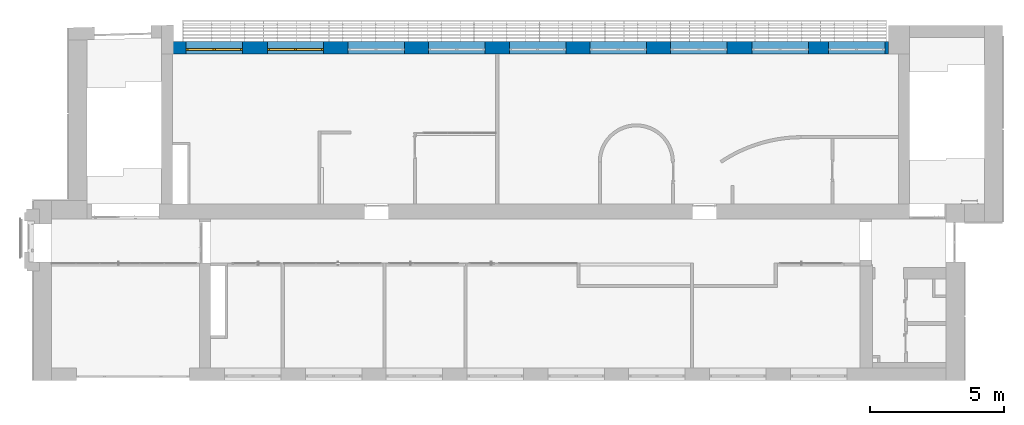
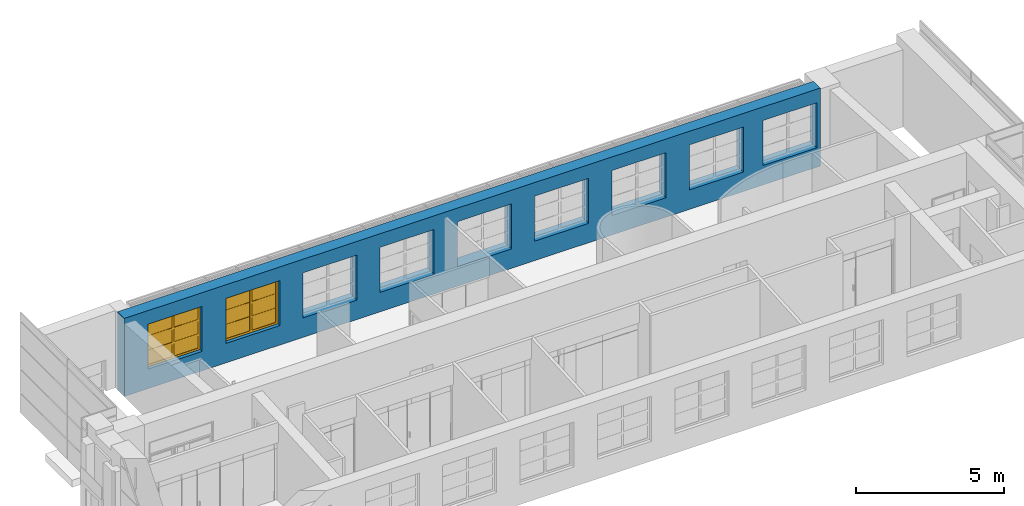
# One storey, part 34 of 46: 2 windows, 1 wall, 9 openings.
"""IFC2X3 building model written with IfcOpenShell, lengths in millimetres."""

from ifc_helpers import new_model, entity, si_unit, converted_unit, derived_unit, direction, frame, frame_2d, origin, origin_2d_with_axis, place, context, subcontext, project, spatial, rectangle, extrude, face_set, surface_model, source, transform, mapped, material, material_list, layer, layer_set, layer_usage, type_object, type_shapes, element, fill, save


model = new_model("IFC2X3")

# Units and contexts
model_context = context("Model", 3, precision=0.01, world=origin(), true_north=direction((6.12303176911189e-17, 1.0)))
body_context = subcontext(model_context, "Body", "Model", "MODEL_VIEW")
ifc_project = project(units=[si_unit("LENGTHUNIT", "METRE", prefix="MILLI"), si_unit("AREAUNIT", "SQUARE_METRE"), si_unit("VOLUMEUNIT", "CUBIC_METRE"), converted_unit("PLANEANGLEUNIT", "DEGREE", entity("IfcRatioMeasure", 0.0174532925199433), si_unit("PLANEANGLEUNIT", "RADIAN"), dimensions=[0, 0, 0, 0, 0, 0, 0]), si_unit("MASSUNIT", "GRAM", prefix="KILO"), derived_unit("MASSDENSITYUNIT", [(si_unit("MASSUNIT", "GRAM", prefix="KILO"), 1), (si_unit("LENGTHUNIT", "METRE"), -3)]), si_unit("TIMEUNIT", "SECOND"), si_unit("FREQUENCYUNIT", "HERTZ"), si_unit("THERMODYNAMICTEMPERATUREUNIT", "DEGREE_CELSIUS"), derived_unit("THERMALTRANSMITTANCEUNIT", [(si_unit("MASSUNIT", "GRAM", prefix="KILO"), 1), (si_unit("THERMODYNAMICTEMPERATUREUNIT", "KELVIN"), -1), (si_unit("TIMEUNIT", "SECOND"), -3)]), derived_unit("VOLUMETRICFLOWRATEUNIT", [(si_unit("LENGTHUNIT", "METRE"), 3), (si_unit("TIMEUNIT", "SECOND"), -1)]), si_unit("ELECTRICCURRENTUNIT", "AMPERE"), si_unit("ELECTRICVOLTAGEUNIT", "VOLT"), si_unit("POWERUNIT", "WATT"), si_unit("FORCEUNIT", "NEWTON", prefix="KILO"), si_unit("ILLUMINANCEUNIT", "LUX"), si_unit("LUMINOUSFLUXUNIT", "LUMEN"), si_unit("LUMINOUSINTENSITYUNIT", "CANDELA"), derived_unit("USERDEFINED", [(si_unit("MASSUNIT", "GRAM", prefix="KILO"), -1), (si_unit("LENGTHUNIT", "METRE"), -2), (si_unit("TIMEUNIT", "SECOND"), 3), (si_unit("LUMINOUSFLUXUNIT", "LUMEN"), 1)]), derived_unit("LINEARVELOCITYUNIT", [(si_unit("LENGTHUNIT", "METRE"), 1), (si_unit("TIMEUNIT", "SECOND"), -1)]), si_unit("PRESSUREUNIT", "PASCAL"), derived_unit("USERDEFINED", [(si_unit("LENGTHUNIT", "METRE"), -2), (si_unit("MASSUNIT", "GRAM", prefix="KILO"), 1), (si_unit("TIMEUNIT", "SECOND"), -2)])], contexts=[model_context])

# Site, building, storey
site_placement = place(None, frame((-151.875543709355, 2715.0, 0.0)))
site = spatial("IfcSite", under=ifc_project, at=site_placement, Name="Surface", CompositionType="ELEMENT")
building_placement = place(site_placement, origin())
building = spatial("IfcBuilding", under=site, at=building_placement, CompositionType="ELEMENT")
storey_placement = place(building_placement, frame((0.0, 0.0, 10060.0)))
storey = spatial("IfcBuildingStorey", under=building, at=storey_placement, Name="4 korrus", CompositionType="ELEMENT", Elevation=10060.0000000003)

# Wall, openings, windows
ifc_material_1 = material(Name="Brick, Common")
ifc_layer_1 = layer(ifc_material_1, 440.0)
ifc_material_2 = material(Name="__Kips GN13_tava")
ifc_layer_2 = layer(ifc_material_2, 20.0)
ifc_layer_set = layer_set([ifc_layer_1, ifc_layer_2], Name="Basic Wall:VS-1")
ifc_layer_usage = layer_usage(ifc_layer_set, "AXIS2", "POSITIVE", -230.0)
wall_type = type_object("IfcWallType", Name="Basic Wall:VS-1", PredefinedType="STANDARD", material=ifc_layer_set)
wall_placement = place(storey_placement, frame((31602.6162682, 12380.0, 0.0), z_axis=(0.0, 0.0, 1.0), x_axis=(-1.0, 0.0, 0.0)))
wall = element("IfcWallStandardCase", 1, at=wall_placement, inside=storey, type_object=wall_type, material=ifc_layer_usage, Name="SEIN - 005", ObjectType="Basic Wall:VS-1", context=body_context, shape_type="SweptSolid", body=[
    extrude(rectangle(XDim=27061.7433388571, YDim=459.999999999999, at=frame_2d((13530.8716694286, 0.0), x_axis=(-1.0, 0.0))), origin(), (0.0, 0.0, 1.0), 3209.74134984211),
])
opening_1_placement = place(wall_placement, frame((31602.6162682, 12380.0, 0.0), z_axis=(0.0, 0.0, 1.0), x_axis=(-1.0, 0.0, 0.0)))
opening_1 = element("IfcOpeningElement", 2, at=opening_1_placement, cuts=wall, Name="SEIN - 005", ObjectType="Opening", context=body_context, shape_type="SweptSolid", body=[
    extrude(rectangle(XDim=1850.0, YDim=2100.0, at=frame_2d((0.0, -5.6843418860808e-13), x_axis=(1.0, 0.0))), frame((6512.84935535, 13077.9, 1725.0), z_axis=(0.0, -1.0, 0.0), x_axis=(0.0, 0.0, 1.0)), (0.0, 0.0, 1.0), 1393.8),
])
opening_2_placement = place(wall_placement, frame((31602.6162682, 12380.0, 0.0), z_axis=(0.0, 0.0, 1.0), x_axis=(-1.0, 0.0, 0.0)))
opening_2 = element("IfcOpeningElement", 3, at=opening_2_placement, cuts=wall, Name="SEIN - 005", ObjectType="Opening", context=body_context, shape_type="SweptSolid", body=[
    extrude(rectangle(XDim=1850.0, YDim=2100.0, at=frame_2d((0.0, -1.02318153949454e-12), x_axis=(1.0, 0.0))), frame((9532.84935535, 13077.9, 1725.0), z_axis=(0.0, -1.0, 0.0), x_axis=(0.0, 0.0, 1.0)), (0.0, 0.0, 1.0), 1393.8),
])
opening_3_placement = place(wall_placement, frame((31602.6162682, 12380.0, 0.0), z_axis=(0.0, 0.0, 1.0), x_axis=(-1.0, 0.0, 0.0)))
element("IfcOpeningElement", 4, at=opening_3_placement, cuts=wall, Name="SEIN - 005", ObjectType="Opening", context=body_context, shape_type="SweptSolid", body=[
    extrude(rectangle(XDim=1850.0, YDim=2100.0, at=origin_2d_with_axis()), frame((12532.84935535, 13077.9, 1725.0), z_axis=(0.0, -1.0, 0.0), x_axis=(0.0, 0.0, 1.0)), (0.0, 0.0, 1.0), 1393.8),
])
opening_4_placement = place(wall_placement, frame((31602.6162682, 12380.0, 0.0), z_axis=(0.0, 0.0, 1.0), x_axis=(-1.0, 0.0, 0.0)))
element("IfcOpeningElement", 5, at=opening_4_placement, cuts=wall, Name="SEIN - 005", ObjectType="Opening", context=body_context, shape_type="SweptSolid", body=[
    extrude(rectangle(XDim=1850.0, YDim=2100.0, at=origin_2d_with_axis()), frame((15532.84935531, 13077.9, 1725.0), z_axis=(0.0, -1.0, 0.0), x_axis=(0.0, 0.0, 1.0)), (0.0, 0.0, 1.0), 1393.8),
])
opening_5_placement = place(wall_placement, frame((31602.6162682, 12380.0, 0.0), z_axis=(0.0, 0.0, 1.0), x_axis=(-1.0, 0.0, 0.0)))
element("IfcOpeningElement", 6, at=opening_5_placement, cuts=wall, Name="SEIN - 005", ObjectType="Opening", context=body_context, shape_type="SweptSolid", body=[
    extrude(rectangle(XDim=1850.0, YDim=2100.0, at=origin_2d_with_axis()), frame((18542.84935531, 13077.9, 1725.0), z_axis=(0.0, -1.0, 0.0), x_axis=(0.0, 0.0, 1.0)), (0.0, 0.0, 1.0), 1393.8),
])
opening_6_placement = place(wall_placement, frame((31602.6162682, 12380.0, 0.0), z_axis=(0.0, 0.0, 1.0), x_axis=(-1.0, 0.0, 0.0)))
element("IfcOpeningElement", 7, at=opening_6_placement, cuts=wall, Name="SEIN - 005", ObjectType="Opening", context=body_context, shape_type="SweptSolid", body=[
    extrude(rectangle(XDim=1850.0, YDim=2100.0, at=origin_2d_with_axis()), frame((21543.05309771, 13077.9, 1725.0), z_axis=(0.0, -1.0, 0.0), x_axis=(0.0, 0.0, 1.0)), (0.0, 0.0, 1.0), 1393.8),
])
opening_7_placement = place(wall_placement, frame((31602.6162682, 12380.0, 0.0), z_axis=(0.0, 0.0, 1.0), x_axis=(-1.0, 0.0, 0.0)))
element("IfcOpeningElement", 8, at=opening_7_placement, cuts=wall, Name="SEIN - 005", ObjectType="Opening", context=body_context, shape_type="SweptSolid", body=[
    extrude(rectangle(XDim=1850.0, YDim=2100.0, at=origin_2d_with_axis()), frame((24543.05309771, 13077.9, 1725.0), z_axis=(0.0, -1.0, 0.0), x_axis=(0.0, 0.0, 1.0)), (0.0, 0.0, 1.0), 1393.8),
])
opening_8_placement = place(wall_placement, frame((31602.6162682, 12380.0, 0.0), z_axis=(0.0, 0.0, 1.0), x_axis=(-1.0, 0.0, 0.0)))
element("IfcOpeningElement", 9, at=opening_8_placement, cuts=wall, Name="SEIN - 005", ObjectType="Opening", context=body_context, shape_type="SweptSolid", body=[
    extrude(rectangle(XDim=1850.0, YDim=2100.0, at=frame_2d((0.0, 4.32009983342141e-12), x_axis=(1.0, 0.0))), frame((27563.05309771, 13077.9, 1725.0), z_axis=(0.0, -1.0, 0.0), x_axis=(0.0, 0.0, 1.0)), (0.0, 0.0, 1.0), 1393.8),
])
opening_9_placement = place(wall_placement, frame((31602.6162682, 12380.0, 0.0), z_axis=(0.0, 0.0, 1.0), x_axis=(-1.0, 0.0, 0.0)))
element("IfcOpeningElement", 10, at=opening_9_placement, cuts=wall, Name="SEIN - 005", ObjectType="Opening", context=body_context, shape_type="SweptSolid", body=[
    extrude(rectangle(XDim=1850.0, YDim=2100.0, at=origin_2d_with_axis()), frame((30412.57293081, 13077.9, 1725.0), z_axis=(0.0, -1.0, 0.0), x_axis=(0.0, 0.0, 1.0)), (0.0, 0.0, 1.0), 1393.8),
])
ifc_material_3 = material(Name="Paint - Titanium White")
ifc_material_4 = material(Name="Paint - Dark Gray")
ifc_material_5 = material(Name="Glass - Clear Fast")
ifc_material_list_1 = material_list([ifc_material_3, ifc_material_4, ifc_material_5])
ifc_material_list_2 = material_list([ifc_material_3, ifc_material_4, ifc_material_5])
window_style = type_object("IfcWindowStyle", Name="Aken_1850x2100", ConstructionType="NOTDEFINED", OperationType="DOUBLE_PANEL_VERTICAL", ParameterTakesPrecedence=False, Sizeable=False, material=ifc_material_list_2)
shared_shape = source(origin(), body_context, "Body", "SurfaceModel", [
    surface_model("IfcFaceBasedSurfaceModel", [(80.0, -665.9, 1770.0), (80.0, -620.9, 1770.0), (0.0, -620.9, 1770.0), (0.0, -665.9, 1770.0), (80.0, -665.9, 80.0), (80.0, -620.9, 80.0), (80.0, -620.9, 1770.0), (80.0, -665.9, 1770.0), (80.0, -620.9, 1770.0), (80.0, -620.9, 80.0), (0.0, -620.9, 80.0), (0.0, -620.9, 1770.0), (0.0, -665.9, 1770.0), (0.0, -620.9, 1770.0), (0.0, -620.9, 80.0), (0.0, -665.9, 80.0), (80.0, -665.9, 1770.0), (0.0, -665.9, 1770.0), (0.0, -665.9, 80.0), (80.0, -665.9, 80.0), (0.0, -665.9, 80.0), (0.0, -620.9, 80.0), (80.0, -620.9, 80.0), (80.0, -665.9, 80.0), (2020.0, -665.9, 80.0), (2020.0, -620.9, 80.0), (2100.0, -620.9, 80.0), (2100.0, -665.9, 80.0), (2020.0, -665.9, 1770.0), (2020.0, -620.9, 1770.0), (2020.0, -620.9, 80.0), (2020.0, -665.9, 80.0), (2020.0, -620.9, 80.0), (2020.0, -620.9, 1770.0), (2100.0, -620.9, 1770.0), (2100.0, -620.9, 80.0), (2100.0, -665.9, 80.0), (2100.0, -620.9, 80.0), (2100.0, -620.9, 1770.0), (2100.0, -665.9, 1770.0), (2020.0, -665.9, 80.0), (2100.0, -665.9, 80.0), (2100.0, -665.9, 1770.0), (2020.0, -665.9, 1770.0), (2100.0, -665.9, 1770.0), (2100.0, -620.9, 1770.0), (2020.0, -620.9, 1770.0), (2020.0, -665.9, 1770.0), (1010.0, -665.9, 80.0), (1010.0, -620.9, 80.0), (1090.0, -620.9, 80.0), (1090.0, -665.9, 80.0), (1010.0, -665.9, 1770.0), (1010.0, -620.9, 1770.0), (1010.0, -620.9, 80.0), (1010.0, -665.9, 80.0), (1010.0, -620.9, 80.0), (1010.0, -620.9, 1770.0), (1090.0, -620.9, 1770.0), (1090.0, -620.9, 80.0), (1090.0, -665.9, 80.0), (1090.0, -620.9, 80.0), (1090.0, -620.9, 1770.0), (1090.0, -665.9, 1770.0), (1010.0, -665.9, 80.0), (1090.0, -665.9, 80.0), (1090.0, -665.9, 1770.0), (1010.0, -665.9, 1770.0), (1090.0, -665.9, 1770.0), (1090.0, -620.9, 1770.0), (1010.0, -620.9, 1770.0), (1010.0, -665.9, 1770.0), (80.0, -665.9, 80.0), (80.0, -620.9, 80.0), (0.0, -620.9, 80.0), (0.0, -665.9, 80.0), (1010.0, -665.9, 80.0), (1010.0, -620.9, 80.0), (80.0, -620.9, 80.0), (80.0, -665.9, 80.0), (80.0, -620.9, 80.0), (1010.0, -620.9, 80.0), (1090.0, -620.9, 80.0), (2020.0, -620.9, 80.0), (2100.0, -620.9, 80.0), (2100.0, -620.9, 0.0), (0.0, -620.9, 0.0), (0.0, -620.9, 80.0), (0.0, -665.9, 80.0), (0.0, -620.9, 80.0), (0.0, -620.9, 0.0), (0.0, -665.9, 0.0), (80.0, -665.9, 80.0), (0.0, -665.9, 80.0), (0.0, -665.9, 0.0), (2100.0, -665.9, 0.0), (2100.0, -665.9, 80.0), (2020.0, -665.9, 80.0), (1090.0, -665.9, 80.0), (1010.0, -665.9, 80.0), (1090.0, -665.9, 80.0), (1090.0, -620.9, 80.0), (1010.0, -620.9, 80.0), (1010.0, -665.9, 80.0), (2020.0, -665.9, 80.0), (2020.0, -620.9, 80.0), (1090.0, -620.9, 80.0), (1090.0, -665.9, 80.0), (2100.0, -665.9, 80.0), (2100.0, -620.9, 80.0), (2020.0, -620.9, 80.0), (2020.0, -665.9, 80.0), (2100.0, -665.9, 0.0), (2100.0, -620.9, 0.0), (2100.0, -620.9, 80.0), (2100.0, -665.9, 80.0), (0.0, -665.9, 0.0), (0.0, -620.9, 0.0), (2100.0, -620.9, 0.0), (2100.0, -665.9, 0.0), (1010.0, -665.9, 1770.0), (1010.0, -620.9, 1770.0), (1090.0, -620.9, 1770.0), (1090.0, -665.9, 1770.0), (80.0, -665.9, 1770.0), (80.0, -620.9, 1770.0), (1010.0, -620.9, 1770.0), (1010.0, -665.9, 1770.0), (1010.0, -620.9, 1770.0), (80.0, -620.9, 1770.0), (0.0, -620.9, 1770.0), (0.0, -620.9, 1850.0), (2100.0, -620.9, 1850.0), (2100.0, -620.9, 1770.0), (2020.0, -620.9, 1770.0), (1090.0, -620.9, 1770.0), (1090.0, -665.9, 1770.0), (1090.0, -620.9, 1770.0), (2020.0, -620.9, 1770.0), (2020.0, -665.9, 1770.0), (1010.0, -665.9, 1770.0), (1090.0, -665.9, 1770.0), (2020.0, -665.9, 1770.0), (2100.0, -665.9, 1770.0), (2100.0, -665.9, 1850.0), (0.0, -665.9, 1850.0), (0.0, -665.9, 1770.0), (80.0, -665.9, 1770.0), (0.0, -665.9, 1770.0), (0.0, -620.9, 1770.0), (80.0, -620.9, 1770.0), (80.0, -665.9, 1770.0), (0.0, -665.9, 1850.0), (0.0, -620.9, 1850.0), (0.0, -620.9, 1770.0), (0.0, -665.9, 1770.0), (2100.0, -665.9, 1850.0), (2100.0, -620.9, 1850.0), (0.0, -620.9, 1850.0), (0.0, -665.9, 1850.0), (2100.0, -665.9, 1770.0), (2100.0, -620.9, 1770.0), (2100.0, -620.9, 1850.0), (2100.0, -665.9, 1850.0), (2020.0, -665.9, 1770.0), (2020.0, -620.9, 1770.0), (2100.0, -620.9, 1770.0), (2100.0, -665.9, 1770.0), (80.0, -640.9, 590.0), (80.0, -630.9, 590.0), (1010.0, -630.9, 590.0), (1010.0, -640.9, 590.0), (80.0, -640.9, 670.0), (80.0, -630.9, 670.0), (80.0, -630.9, 590.0), (80.0, -640.9, 590.0), (80.0, -630.9, 590.0), (80.0, -630.9, 670.0), (1010.0, -630.9, 670.0), (1010.0, -630.9, 590.0), (1010.0, -640.9, 590.0), (1010.0, -630.9, 590.0), (1010.0, -630.9, 670.0), (1010.0, -640.9, 670.0), (80.0, -640.9, 590.0), (1010.0, -640.9, 590.0), (1010.0, -640.9, 670.0), (80.0, -640.9, 670.0), (1010.0, -640.9, 670.0), (1010.0, -630.9, 670.0), (80.0, -630.9, 670.0), (80.0, -640.9, 670.0), (80.0, -640.9, 1180.0), (80.0, -630.9, 1180.0), (1010.0, -630.9, 1180.0), (1010.0, -640.9, 1180.0), (80.0, -640.9, 1260.0), (80.0, -630.9, 1260.0), (80.0, -630.9, 1180.0), (80.0, -640.9, 1180.0), (80.0, -630.9, 1180.0), (80.0, -630.9, 1260.0), (1010.0, -630.9, 1260.0), (1010.0, -630.9, 1180.0), (1010.0, -640.9, 1180.0), (1010.0, -630.9, 1180.0), (1010.0, -630.9, 1260.0), (1010.0, -640.9, 1260.0), (80.0, -640.9, 1180.0), (1010.0, -640.9, 1180.0), (1010.0, -640.9, 1260.0), (80.0, -640.9, 1260.0), (1010.0, -640.9, 1260.0), (1010.0, -630.9, 1260.0), (80.0, -630.9, 1260.0), (80.0, -640.9, 1260.0), (1090.0, -640.9, 590.0), (1090.0, -630.9, 590.0), (2020.0, -630.9, 590.0), (2020.0, -640.9, 590.0), (1090.0, -640.9, 670.0), (1090.0, -630.9, 670.0), (1090.0, -630.9, 590.0), (1090.0, -640.9, 590.0), (1090.0, -630.9, 590.0), (1090.0, -630.9, 670.0), (2020.0, -630.9, 670.0), (2020.0, -630.9, 590.0), (2020.0, -640.9, 590.0), (2020.0, -630.9, 590.0), (2020.0, -630.9, 670.0), (2020.0, -640.9, 670.0), (1090.0, -640.9, 590.0), (2020.0, -640.9, 590.0), (2020.0, -640.9, 670.0), (1090.0, -640.9, 670.0), (2020.0, -640.9, 670.0), (2020.0, -630.9, 670.0), (1090.0, -630.9, 670.0), (1090.0, -640.9, 670.0), (1090.0, -640.9, 1180.0), (1090.0, -630.9, 1180.0), (2020.0, -630.9, 1180.0), (2020.0, -640.9, 1180.0), (1090.0, -640.9, 1260.0), (1090.0, -630.9, 1260.0), (1090.0, -630.9, 1180.0), (1090.0, -640.9, 1180.0), (1090.0, -630.9, 1180.0), (1090.0, -630.9, 1260.0), (2020.0, -630.9, 1260.0), (2020.0, -630.9, 1180.0), (2020.0, -640.9, 1180.0), (2020.0, -630.9, 1180.0), (2020.0, -630.9, 1260.0), (2020.0, -640.9, 1260.0), (1090.0, -640.9, 1180.0), (2020.0, -640.9, 1180.0), (2020.0, -640.9, 1260.0), (1090.0, -640.9, 1260.0), (2020.0, -640.9, 1260.0), (2020.0, -630.9, 1260.0), (1090.0, -630.9, 1260.0), (1090.0, -640.9, 1260.0)], [face_set([[[0, 1, 2, 3]]]), face_set([[[4, 5, 6, 7]]]), face_set([[[8, 9, 10, 11]]]), face_set([[[12, 13, 14, 15]]]), face_set([[[16, 17, 18, 19]]]), face_set([[[20, 21, 22, 23]]]), face_set([[[24, 25, 26, 27]]]), face_set([[[28, 29, 30, 31]]]), face_set([[[32, 33, 34, 35]]]), face_set([[[36, 37, 38, 39]]]), face_set([[[40, 41, 42, 43]]]), face_set([[[44, 45, 46, 47]]]), face_set([[[48, 49, 50, 51]]]), face_set([[[52, 53, 54, 55]]]), face_set([[[56, 57, 58, 59]]]), face_set([[[60, 61, 62, 63]]]), face_set([[[64, 65, 66, 67]]]), face_set([[[68, 69, 70, 71]]]), face_set([[[72, 73, 74, 75]]]), face_set([[[76, 77, 78, 79]]]), face_set([[[80, 81, 82, 83, 84, 85, 86, 87]]]), face_set([[[88, 89, 90, 91]]]), face_set([[[92, 93, 94, 95, 96, 97, 98, 99]]]), face_set([[[100, 101, 102, 103]]]), face_set([[[104, 105, 106, 107]]]), face_set([[[108, 109, 110, 111]]]), face_set([[[112, 113, 114, 115]]]), face_set([[[116, 117, 118, 119]]]), face_set([[[120, 121, 122, 123]]]), face_set([[[124, 125, 126, 127]]]), face_set([[[128, 129, 130, 131, 132, 133, 134, 135]]]), face_set([[[136, 137, 138, 139]]]), face_set([[[140, 141, 142, 143, 144, 145, 146, 147]]]), face_set([[[148, 149, 150, 151]]]), face_set([[[152, 153, 154, 155]]]), face_set([[[156, 157, 158, 159]]]), face_set([[[160, 161, 162, 163]]]), face_set([[[164, 165, 166, 167]]]), face_set([[[168, 169, 170, 171]]]), face_set([[[172, 173, 174, 175]]]), face_set([[[176, 177, 178, 179]]]), face_set([[[180, 181, 182, 183]]]), face_set([[[184, 185, 186, 187]]]), face_set([[[188, 189, 190, 191]]]), face_set([[[192, 193, 194, 195]]]), face_set([[[196, 197, 198, 199]]]), face_set([[[200, 201, 202, 203]]]), face_set([[[204, 205, 206, 207]]]), face_set([[[208, 209, 210, 211]]]), face_set([[[212, 213, 214, 215]]]), face_set([[[216, 217, 218, 219]]]), face_set([[[220, 221, 222, 223]]]), face_set([[[224, 225, 226, 227]]]), face_set([[[228, 229, 230, 231]]]), face_set([[[232, 233, 234, 235]]]), face_set([[[236, 237, 238, 239]]]), face_set([[[240, 241, 242, 243]]]), face_set([[[244, 245, 246, 247]]]), face_set([[[248, 249, 250, 251]]]), face_set([[[252, 253, 254, 255]]]), face_set([[[256, 257, 258, 259]]]), face_set([[[260, 261, 262, 263]]])]),
    surface_model("IfcFaceBasedSurfaceModel", [(80.0, -620.9, 1770.0), (80.0, -595.9, 1770.0), (0.0, -595.9, 1770.0), (0.0, -620.9, 1770.0), (80.0, -620.9, 80.0), (80.0, -595.9, 80.0), (80.0, -595.9, 1770.0), (80.0, -620.9, 1770.0), (80.0, -595.9, 1770.0), (80.0, -595.9, 80.0), (0.0, -595.9, 80.0), (0.0, -595.9, 1770.0), (0.0, -620.9, 1770.0), (0.0, -595.9, 1770.0), (0.0, -595.9, 80.0), (0.0, -620.9, 80.0), (80.0, -620.9, 1770.0), (0.0, -620.9, 1770.0), (0.0, -620.9, 80.0), (80.0, -620.9, 80.0), (0.0, -620.9, 80.0), (0.0, -595.9, 80.0), (80.0, -595.9, 80.0), (80.0, -620.9, 80.0), (2020.0, -620.9, 80.0), (2020.0, -595.9, 80.0), (2100.0, -595.9, 80.0), (2100.0, -620.9, 80.0), (2020.0, -620.9, 1770.0), (2020.0, -595.9, 1770.0), (2020.0, -595.9, 80.0), (2020.0, -620.9, 80.0), (2020.0, -595.9, 80.0), (2020.0, -595.9, 1770.0), (2100.0, -595.9, 1770.0), (2100.0, -595.9, 80.0), (2100.0, -620.9, 80.0), (2100.0, -595.9, 80.0), (2100.0, -595.9, 1770.0), (2100.0, -620.9, 1770.0), (2020.0, -620.9, 80.0), (2100.0, -620.9, 80.0), (2100.0, -620.9, 1770.0), (2020.0, -620.9, 1770.0), (2100.0, -620.9, 1770.0), (2100.0, -595.9, 1770.0), (2020.0, -595.9, 1770.0), (2020.0, -620.9, 1770.0), (1010.0, -620.9, 80.0), (1010.0, -595.9, 80.0), (1090.0, -595.9, 80.0), (1090.0, -620.9, 80.0), (1010.0, -620.9, 1770.0), (1010.0, -595.9, 1770.0), (1010.0, -595.9, 80.0), (1010.0, -620.9, 80.0), (1010.0, -595.9, 80.0), (1010.0, -595.9, 1770.0), (1090.0, -595.9, 1770.0), (1090.0, -595.9, 80.0), (1090.0, -620.9, 80.0), (1090.0, -595.9, 80.0), (1090.0, -595.9, 1770.0), (1090.0, -620.9, 1770.0), (1010.0, -620.9, 80.0), (1090.0, -620.9, 80.0), (1090.0, -620.9, 1770.0), (1010.0, -620.9, 1770.0), (1090.0, -620.9, 1770.0), (1090.0, -595.9, 1770.0), (1010.0, -595.9, 1770.0), (1010.0, -620.9, 1770.0), (80.0, -620.9, 80.0), (80.0, -595.9, 80.0), (0.0, -595.9, 80.0), (0.0, -620.9, 80.0), (1010.0, -620.9, 80.0), (1010.0, -595.9, 80.0), (80.0, -595.9, 80.0), (80.0, -620.9, 80.0), (80.0, -595.9, 80.0), (1010.0, -595.9, 80.0), (1090.0, -595.9, 80.0), (2020.0, -595.9, 80.0), (2100.0, -595.9, 80.0), (2100.0, -595.9, 0.0), (0.0, -595.9, 0.0), (0.0, -595.9, 80.0), (0.0, -620.9, 80.0), (0.0, -595.9, 80.0), (0.0, -595.9, 0.0), (0.0, -620.9, 0.0), (80.0, -620.9, 80.0), (0.0, -620.9, 80.0), (0.0, -620.9, 0.0), (2100.0, -620.9, 0.0), (2100.0, -620.9, 80.0), (2020.0, -620.9, 80.0), (1090.0, -620.9, 80.0), (1010.0, -620.9, 80.0), (1090.0, -620.9, 80.0), (1090.0, -595.9, 80.0), (1010.0, -595.9, 80.0), (1010.0, -620.9, 80.0), (2020.0, -620.9, 80.0), (2020.0, -595.9, 80.0), (1090.0, -595.9, 80.0), (1090.0, -620.9, 80.0), (2100.0, -620.9, 80.0), (2100.0, -595.9, 80.0), (2020.0, -595.9, 80.0), (2020.0, -620.9, 80.0), (2100.0, -620.9, 0.0), (2100.0, -595.9, 0.0), (2100.0, -595.9, 80.0), (2100.0, -620.9, 80.0), (0.0, -620.9, 0.0), (0.0, -595.9, 0.0), (2100.0, -595.9, 0.0), (2100.0, -620.9, 0.0), (1010.0, -620.9, 1770.0), (1010.0, -595.9, 1770.0), (1090.0, -595.9, 1770.0), (1090.0, -620.9, 1770.0), (80.0, -620.9, 1770.0), (80.0, -595.9, 1770.0), (1010.0, -595.9, 1770.0), (1010.0, -620.9, 1770.0), (1010.0, -595.9, 1770.0), (80.0, -595.9, 1770.0), (0.0, -595.9, 1770.0), (0.0, -595.9, 1850.0), (2100.0, -595.9, 1850.0), (2100.0, -595.9, 1770.0), (2020.0, -595.9, 1770.0), (1090.0, -595.9, 1770.0), (1090.0, -620.9, 1770.0), (1090.0, -595.9, 1770.0), (2020.0, -595.9, 1770.0), (2020.0, -620.9, 1770.0), (1010.0, -620.9, 1770.0), (1090.0, -620.9, 1770.0), (2020.0, -620.9, 1770.0), (2100.0, -620.9, 1770.0), (2100.0, -620.9, 1850.0), (0.0, -620.9, 1850.0), (0.0, -620.9, 1770.0), (80.0, -620.9, 1770.0), (0.0, -620.9, 1770.0), (0.0, -595.9, 1770.0), (80.0, -595.9, 1770.0), (80.0, -620.9, 1770.0), (0.0, -620.9, 1850.0), (0.0, -595.9, 1850.0), (0.0, -595.9, 1770.0), (0.0, -620.9, 1770.0), (2100.0, -620.9, 1850.0), (2100.0, -595.9, 1850.0), (0.0, -595.9, 1850.0), (0.0, -620.9, 1850.0), (2100.0, -620.9, 1770.0), (2100.0, -595.9, 1770.0), (2100.0, -595.9, 1850.0), (2100.0, -620.9, 1850.0), (2020.0, -620.9, 1770.0), (2020.0, -595.9, 1770.0), (2100.0, -595.9, 1770.0), (2100.0, -620.9, 1770.0), (80.0, -630.9, 590.0), (80.0, -600.9, 590.0), (1010.0, -600.9, 590.0), (1010.0, -630.9, 590.0), (80.0, -630.9, 670.0), (80.0, -600.9, 670.0), (80.0, -600.9, 590.0), (80.0, -630.9, 590.0), (80.0, -600.9, 590.0), (80.0, -600.9, 670.0), (1010.0, -600.9, 670.0), (1010.0, -600.9, 590.0), (1010.0, -630.9, 590.0), (1010.0, -600.9, 590.0), (1010.0, -600.9, 670.0), (1010.0, -630.9, 670.0), (80.0, -630.9, 590.0), (1010.0, -630.9, 590.0), (1010.0, -630.9, 670.0), (80.0, -630.9, 670.0), (1010.0, -630.9, 670.0), (1010.0, -600.9, 670.0), (80.0, -600.9, 670.0), (80.0, -630.9, 670.0), (80.0, -630.9, 1180.0), (80.0, -600.9, 1180.0), (1010.0, -600.9, 1180.0), (1010.0, -630.9, 1180.0), (80.0, -630.9, 1260.0), (80.0, -600.9, 1260.0), (80.0, -600.9, 1180.0), (80.0, -630.9, 1180.0), (80.0, -600.9, 1180.0), (80.0, -600.9, 1260.0), (1010.0, -600.9, 1260.0), (1010.0, -600.9, 1180.0), (1010.0, -630.9, 1180.0), (1010.0, -600.9, 1180.0), (1010.0, -600.9, 1260.0), (1010.0, -630.9, 1260.0), (80.0, -630.9, 1180.0), (1010.0, -630.9, 1180.0), (1010.0, -630.9, 1260.0), (80.0, -630.9, 1260.0), (1010.0, -630.9, 1260.0), (1010.0, -600.9, 1260.0), (80.0, -600.9, 1260.0), (80.0, -630.9, 1260.0), (1090.0, -630.9, 590.0), (1090.0, -600.9, 590.0), (2020.0, -600.9, 590.0), (2020.0, -630.9, 590.0), (1090.0, -630.9, 670.0), (1090.0, -600.9, 670.0), (1090.0, -600.9, 590.0), (1090.0, -630.9, 590.0), (1090.0, -600.9, 590.0), (1090.0, -600.9, 670.0), (2020.0, -600.9, 670.0), (2020.0, -600.9, 590.0), (2020.0, -630.9, 590.0), (2020.0, -600.9, 590.0), (2020.0, -600.9, 670.0), (2020.0, -630.9, 670.0), (1090.0, -630.9, 590.0), (2020.0, -630.9, 590.0), (2020.0, -630.9, 670.0), (1090.0, -630.9, 670.0), (2020.0, -630.9, 670.0), (2020.0, -600.9, 670.0), (1090.0, -600.9, 670.0), (1090.0, -630.9, 670.0), (1090.0, -630.9, 1180.0), (1090.0, -600.9, 1180.0), (2020.0, -600.9, 1180.0), (2020.0, -630.9, 1180.0), (1090.0, -630.9, 1260.0), (1090.0, -600.9, 1260.0), (1090.0, -600.9, 1180.0), (1090.0, -630.9, 1180.0), (1090.0, -600.9, 1180.0), (1090.0, -600.9, 1260.0), (2020.0, -600.9, 1260.0), (2020.0, -600.9, 1180.0), (2020.0, -630.9, 1180.0), (2020.0, -600.9, 1180.0), (2020.0, -600.9, 1260.0), (2020.0, -630.9, 1260.0), (1090.0, -630.9, 1180.0), (2020.0, -630.9, 1180.0), (2020.0, -630.9, 1260.0), (1090.0, -630.9, 1260.0), (2020.0, -630.9, 1260.0), (2020.0, -600.9, 1260.0), (1090.0, -600.9, 1260.0), (1090.0, -630.9, 1260.0)], [face_set([[[0, 1, 2, 3]]]), face_set([[[4, 5, 6, 7]]]), face_set([[[8, 9, 10, 11]]]), face_set([[[12, 13, 14, 15]]]), face_set([[[16, 17, 18, 19]]]), face_set([[[20, 21, 22, 23]]]), face_set([[[24, 25, 26, 27]]]), face_set([[[28, 29, 30, 31]]]), face_set([[[32, 33, 34, 35]]]), face_set([[[36, 37, 38, 39]]]), face_set([[[40, 41, 42, 43]]]), face_set([[[44, 45, 46, 47]]]), face_set([[[48, 49, 50, 51]]]), face_set([[[52, 53, 54, 55]]]), face_set([[[56, 57, 58, 59]]]), face_set([[[60, 61, 62, 63]]]), face_set([[[64, 65, 66, 67]]]), face_set([[[68, 69, 70, 71]]]), face_set([[[72, 73, 74, 75]]]), face_set([[[76, 77, 78, 79]]]), face_set([[[80, 81, 82, 83, 84, 85, 86, 87]]]), face_set([[[88, 89, 90, 91]]]), face_set([[[92, 93, 94, 95, 96, 97, 98, 99]]]), face_set([[[100, 101, 102, 103]]]), face_set([[[104, 105, 106, 107]]]), face_set([[[108, 109, 110, 111]]]), face_set([[[112, 113, 114, 115]]]), face_set([[[116, 117, 118, 119]]]), face_set([[[120, 121, 122, 123]]]), face_set([[[124, 125, 126, 127]]]), face_set([[[128, 129, 130, 131, 132, 133, 134, 135]]]), face_set([[[136, 137, 138, 139]]]), face_set([[[140, 141, 142, 143, 144, 145, 146, 147]]]), face_set([[[148, 149, 150, 151]]]), face_set([[[152, 153, 154, 155]]]), face_set([[[156, 157, 158, 159]]]), face_set([[[160, 161, 162, 163]]]), face_set([[[164, 165, 166, 167]]]), face_set([[[168, 169, 170, 171]]]), face_set([[[172, 173, 174, 175]]]), face_set([[[176, 177, 178, 179]]]), face_set([[[180, 181, 182, 183]]]), face_set([[[184, 185, 186, 187]]]), face_set([[[188, 189, 190, 191]]]), face_set([[[192, 193, 194, 195]]]), face_set([[[196, 197, 198, 199]]]), face_set([[[200, 201, 202, 203]]]), face_set([[[204, 205, 206, 207]]]), face_set([[[208, 209, 210, 211]]]), face_set([[[212, 213, 214, 215]]]), face_set([[[216, 217, 218, 219]]]), face_set([[[220, 221, 222, 223]]]), face_set([[[224, 225, 226, 227]]]), face_set([[[228, 229, 230, 231]]]), face_set([[[232, 233, 234, 235]]]), face_set([[[236, 237, 238, 239]]]), face_set([[[240, 241, 242, 243]]]), face_set([[[244, 245, 246, 247]]]), face_set([[[248, 249, 250, 251]]]), face_set([[[252, 253, 254, 255]]]), face_set([[[256, 257, 258, 259]]]), face_set([[[260, 261, 262, 263]]])]),
    surface_model("IfcFaceBasedSurfaceModel", [(1010.0, -630.9, 80.0), (1010.0, -630.9, 590.0), (80.0, -630.9, 590.0), (80.0, -630.9, 80.0), (1010.0, -610.9, 80.0), (80.0, -610.9, 80.0), (80.0, -610.9, 590.0), (1010.0, -610.9, 590.0), (1010.0, -630.9, 670.0), (1010.0, -630.9, 1180.0), (80.0, -630.9, 1180.0), (80.0, -630.9, 670.0), (1010.0, -610.9, 670.0), (80.0, -610.9, 670.0), (80.0, -610.9, 1180.0), (1010.0, -610.9, 1180.0), (1010.0, -630.9, 1260.0), (1010.0, -630.9, 1770.0), (80.0, -630.9, 1770.0), (80.0, -630.9, 1260.0), (1010.0, -610.9, 1260.0), (80.0, -610.9, 1260.0), (80.0, -610.9, 1770.0), (1010.0, -610.9, 1770.0), (2020.0, -630.9, 80.0), (2020.0, -630.9, 590.0), (1090.0, -630.9, 590.0), (1090.0, -630.9, 80.0), (2020.0, -610.9, 80.0), (1090.0, -610.9, 80.0), (1090.0, -610.9, 590.0), (2020.0, -610.9, 590.0), (2020.0, -630.9, 670.0), (2020.0, -630.9, 1180.0), (1090.0, -630.9, 1180.0), (1090.0, -630.9, 670.0), (2020.0, -610.9, 670.0), (1090.0, -610.9, 670.0), (1090.0, -610.9, 1180.0), (2020.0, -610.9, 1180.0), (2020.0, -630.9, 1260.0), (2020.0, -630.9, 1770.0), (1090.0, -630.9, 1770.0), (1090.0, -630.9, 1260.0), (2020.0, -610.9, 1260.0), (1090.0, -610.9, 1260.0), (1090.0, -610.9, 1770.0), (2020.0, -610.9, 1770.0)], [face_set([[[0, 1, 2, 3]]]), face_set([[[4, 5, 6, 7]]]), face_set([[[8, 9, 10, 11]]]), face_set([[[12, 13, 14, 15]]]), face_set([[[16, 17, 18, 19]]]), face_set([[[20, 21, 22, 23]]]), face_set([[[24, 25, 26, 27]]]), face_set([[[28, 29, 30, 31]]]), face_set([[[32, 33, 34, 35]]]), face_set([[[36, 37, 38, 39]]]), face_set([[[40, 41, 42, 43]]]), face_set([[[44, 45, 46, 47]]])]),
])
type_shapes(window_style, [shared_shape])
window_1_placement = place(opening_1_placement, frame((7562.84935535, 11684.1, 800.0), z_axis=(0.0, 0.0, 1.0), x_axis=(-1.0, 0.0, 0.0)))
window_1 = element("IfcWindow", 11, at=window_1_placement, inside=storey, type_object=window_style, material=ifc_material_list_1, Name="Aken_1850x2100:Aken_1850x2100", ObjectType="Aken_1850x2100", OverallHeight=2100.0, OverallWidth=1850.0, context=body_context, shape_type="MappedRepresentation", body=[
    mapped(shared_shape, transform((0.0, 0.0, 0.0), scale=1.0)),
])
fill(opening_1, window_1)
ifc_material_list_3 = material_list([ifc_material_3, ifc_material_4, ifc_material_5])
window_2_placement = place(opening_2_placement, frame((10582.84935535, 11684.1, 800.0), z_axis=(0.0, 0.0, 1.0), x_axis=(-1.0, 0.0, 0.0)))
window_2 = element("IfcWindow", 12, at=window_2_placement, inside=storey, type_object=window_style, material=ifc_material_list_3, Name="Aken_1850x2100:Aken_1850x2100", ObjectType="Aken_1850x2100", OverallHeight=2100.0, OverallWidth=1850.0, context=body_context, shape_type="MappedRepresentation", body=[
    mapped(shared_shape, transform((0.0, 0.0, 0.0), scale=1.0)),
])
fill(opening_2, window_2)

save(model, "model.ifc")
